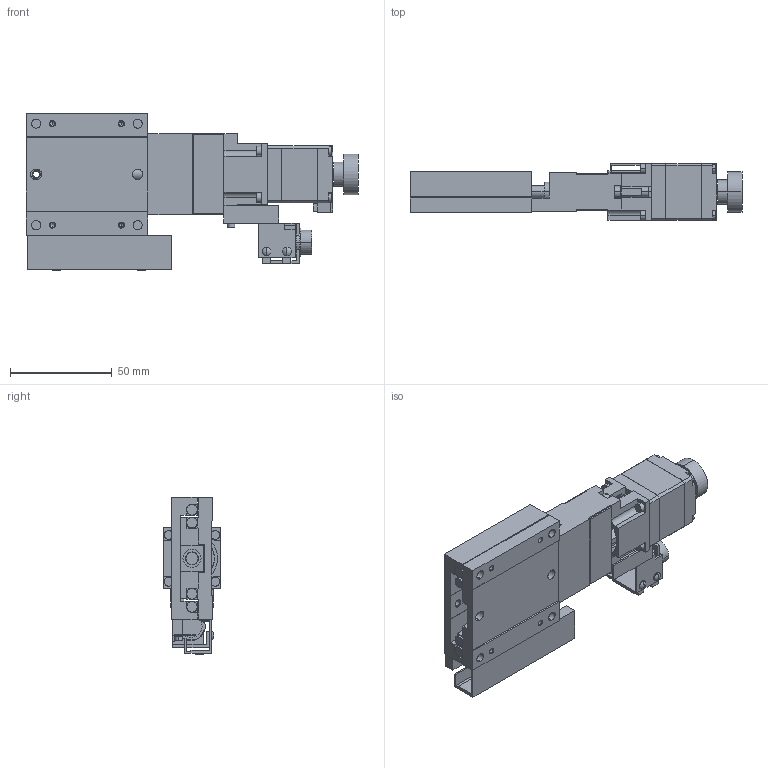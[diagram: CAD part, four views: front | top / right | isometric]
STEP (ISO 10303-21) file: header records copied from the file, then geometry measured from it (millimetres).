
FILE_DESCRIPTION(('STEP AP203'),'1');
FILE_NAME('C:/3D-Trans/3D_PG615M-R□-C4+231013.step','2023-10-13T07:19:02',(' '),(' '),'Spatial InterOp 3D',' ',' ');
FILE_SCHEMA(('CONFIG_CONTROL_DESIGN'));
Length unit declared in the file: millimetre
Products named in the file (6): 1; 2; 3; 4; 5; 6
Bounding box: 163.5 x 28 x 77.4 mm (x, y, z)
Volume: 113712 mm3; surface area: 58006.1 mm2
Topology: 6 solids, 6 shells, 741 faces, 1906 edges, 1211 vertices
Faces by surface type: plane 454, cylinder 219, cone 64, sphere 4
Entity records: 22738 total; most frequent: CARTESIAN_POINT 4028, DIRECTION 3918, ORIENTED_EDGE 3764, EDGE_CURVE 1882, LINE 1324, VECTOR 1324, AXIS2_PLACEMENT_3D 1297, VERTEX_POINT 1211
